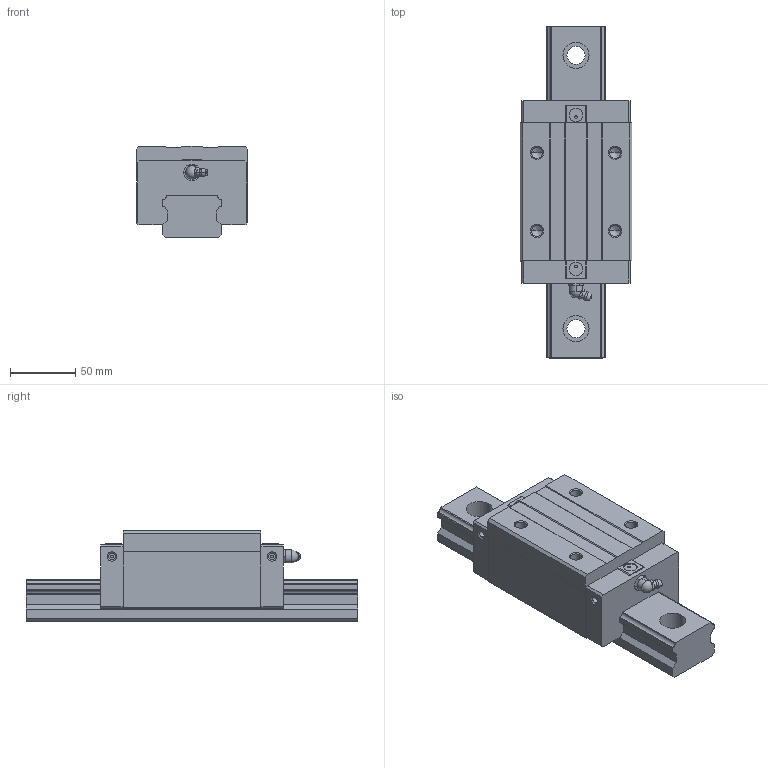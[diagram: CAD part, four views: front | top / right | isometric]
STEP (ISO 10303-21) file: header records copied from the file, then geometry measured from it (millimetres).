
FILE_DESCRIPTION((''),'1');
FILE_NAME(' ',' ',(''),(''),'ACIS Interop R16','Kubotek KeyCreator V6.5.2 (0407)',' ');
FILE_SCHEMA(('CONFIG_CONTROL_DESIGN'));
Length unit declared in the file: millimetre
Products named in the file (3): 1; 2; 3
Bounding box: 86 x 255 x 70 mm (x, y, z)
Volume: 869794.7 mm3; surface area: 104877.2 mm2
Topology: 3 solids, 3 shells, 225 faces, 582 edges, 377 vertices
Faces by surface type: plane 110, cylinder 74, cone 26, torus 10, sphere 3, bspline 2
Entity records: 7116 total; most frequent: CARTESIAN_POINT 1367, DIRECTION 1216, ORIENTED_EDGE 1144, EDGE_CURVE 572, AXIS2_PLACEMENT_3D 442, VERTEX_POINT 377, LINE 332, VECTOR 332
